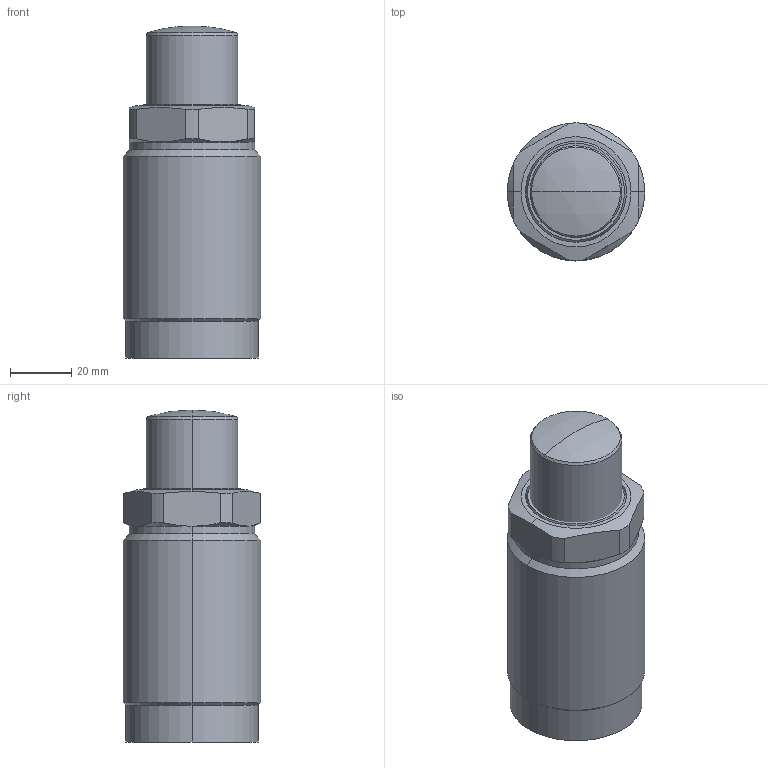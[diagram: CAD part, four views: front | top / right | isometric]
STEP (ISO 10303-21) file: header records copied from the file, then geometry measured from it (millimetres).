
FILE_DESCRIPTION (( 'STEP AP203' ), '1' );
FILE_NAME ('650451-RL.step', '2016-11-02T03:14:44', ( 'wxp' ), ( '' ), 'SwSTEP 2.0', 'SolidWorks 2011', '' );
FILE_SCHEMA (( 'CONFIG_CONTROL_DESIGN' ));
Length unit declared in the file: millimetre
Products named in the file (3): 650451-RL; 葩璃 650451-RL.sldasm-Part-2^650451-RL; 葩璃 650451-RL.sldasm-Part-1^650451-RL
Assembly tree (2 placements, depth 2):
  650451-RL
    葩璃 650451-RL.sldasm-Part-1^650451-RL
    葩璃 650451-RL.sldasm-Part-2^650451-RL
Bounding box: 45 x 45 x 108.5 mm (x, y, z)
Volume: 144878.7 mm3; surface area: 19636.7 mm2
Topology: 2 solids, 2 shells, 63 faces, 138 edges, 84 vertices
Faces by surface type: cylinder 26, plane 15, cone 14, torus 6, sphere 2
Entity records: 2113 total; most frequent: CARTESIAN_POINT 404, DIRECTION 330, ORIENTED_EDGE 272, AXIS2_PLACEMENT_3D 142, EDGE_CURVE 136, VERTEX_POINT 84, CIRCLE 74, EDGE_LOOP 70
